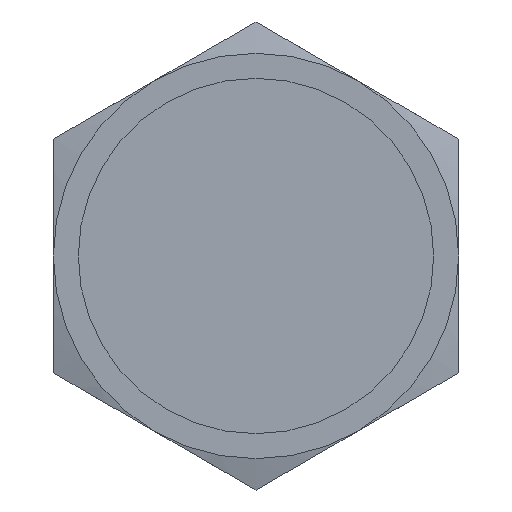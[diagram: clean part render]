
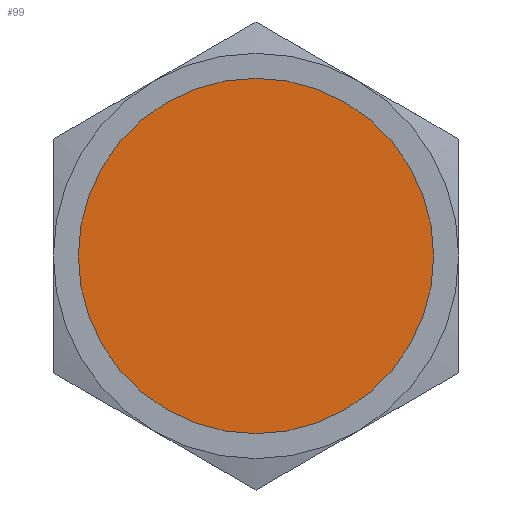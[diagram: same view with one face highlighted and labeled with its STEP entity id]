
A CAD part, front view. The second image highlights one B-rep face of the part: STEP entity #99.
In plain terms, the highlighted planar face has unit normal (0, -1, 0).
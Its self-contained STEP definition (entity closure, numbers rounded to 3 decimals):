
#99 = ADVANCED_FACE( '', ( #161 ), #162, .T. );
#161 = FACE_OUTER_BOUND( '', #240, .T. );
#162 = PLANE( '', #241 );
#240 = EDGE_LOOP( '', ( #441, #442 ) );
#241 = AXIS2_PLACEMENT_3D( '', #443, #444, #445 );
#441 = ORIENTED_EDGE( '', *, *, #557, .F. );
#442 = ORIENTED_EDGE( '', *, *, #599, .F. );
#443 = CARTESIAN_POINT( '', ( 4.166, -5.1, 0. ) );
#444 = DIRECTION( '', ( 0., -1., 0. ) );
#445 = DIRECTION( '', ( -1., 0., 0. ) );
#557 = EDGE_CURVE( '', #654, #657, #658, .T. );
#599 = EDGE_CURVE( '', #657, #654, #721, .T. );
#654 = VERTEX_POINT( '', #786 );
#657 = VERTEX_POINT( '', #790 );
#658 = CIRCLE( '', #791, 8.331 );
#721 = CIRCLE( '', #1077, 8.331 );
#786 = CARTESIAN_POINT( '', ( 8.331, -5.1, 0. ) );
#790 = CARTESIAN_POINT( '', ( -8.331, -5.1, 0. ) );
#791 = AXIS2_PLACEMENT_3D( '', #1135, #1136, #1137 );
#1077 = AXIS2_PLACEMENT_3D( '', #1175, #1176, #1177 );
#1135 = CARTESIAN_POINT( '', ( 0., -5.1, 0. ) );
#1136 = DIRECTION( '', ( 0., 1., 0. ) );
#1137 = DIRECTION( '', ( 1., 0., 0. ) );
#1175 = CARTESIAN_POINT( '', ( 0., -5.1, 0. ) );
#1176 = DIRECTION( '', ( 0., 1., 0. ) );
#1177 = DIRECTION( '', ( 1., 0., 0. ) );
